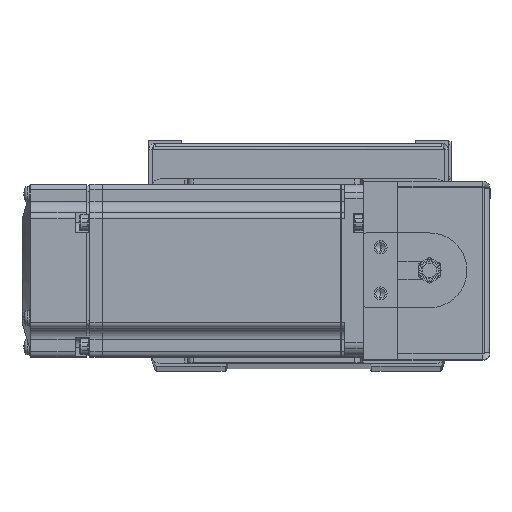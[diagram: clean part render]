
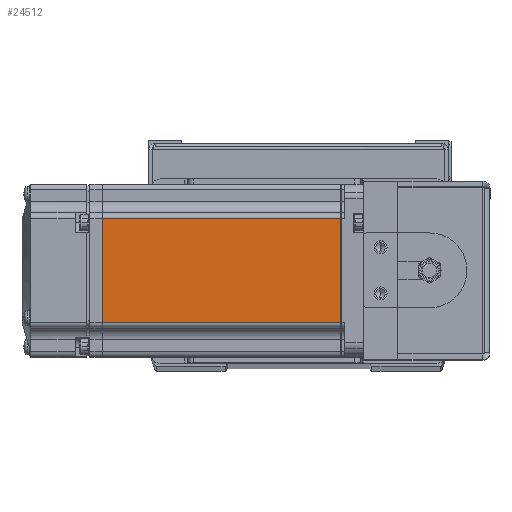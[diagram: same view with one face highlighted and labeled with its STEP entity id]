
A CAD part, top view. The second image highlights one B-rep face of the part: STEP entity #24512.
In plain terms, the highlighted planar face has unit normal (0, 0, 1) as drawn and (0, -1, 0) by its records, which use the part's own axes.
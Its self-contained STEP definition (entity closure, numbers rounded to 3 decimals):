
#543 = DIRECTION ( 'NONE',  ( 0., 0., -1. ) ) ;
#3487 = CARTESIAN_POINT ( 'NONE',  ( -6.5, -30., -18. ) ) ;
#3490 = CARTESIAN_POINT ( 'NONE',  ( -90.45, -30., 18. ) ) ;
#3562 = DIRECTION ( 'NONE',  ( 0., 0., -1. ) ) ;
#7850 = CARTESIAN_POINT ( 'NONE',  ( -6.5, -30., 18. ) ) ;
#8160 = VERTEX_POINT ( 'NONE', #15520 ) ;
#8940 = CARTESIAN_POINT ( 'NONE',  ( -7.75, -30., 0. ) ) ;
#10960 = EDGE_CURVE ( 'NONE', #34657, #40923, #44515, .T. ) ;
#12353 = EDGE_CURVE ( 'NONE', #28369, #8160, #26167, .T. ) ;
#14448 = LINE ( 'NONE', #3487, #31131 ) ;
#15011 = ORIENTED_EDGE ( 'NONE', *, *, #12353, .T. ) ;
#15520 = CARTESIAN_POINT ( 'NONE',  ( -90.45, -30., -18. ) ) ;
#15694 = AXIS2_PLACEMENT_3D ( 'NONE', #32534, #36174, #543 ) ;
#18918 = EDGE_CURVE ( 'NONE', #40923, #8160, #14448, .T. ) ;
#19782 = DIRECTION ( 'NONE',  ( -1., 0., 0. ) ) ;
#21441 = VECTOR ( 'NONE', #19782, 1000. ) ;
#21701 = ORIENTED_EDGE ( 'NONE', *, *, #48369, .T. ) ;
#22536 = DIRECTION ( 'NONE',  ( 0., 0., -1. ) ) ;
#22860 = CARTESIAN_POINT ( 'NONE',  ( -7.75, -30., 18. ) ) ;
#24512 = ADVANCED_FACE ( 'NONE', ( #29116 ), #47854, .T. ) ;
#26167 = LINE ( 'NONE', #34486, #40919 ) ;
#27207 = ORIENTED_EDGE ( 'NONE', *, *, #18918, .F. ) ;
#28369 = VERTEX_POINT ( 'NONE', #3490 ) ;
#29116 = FACE_OUTER_BOUND ( 'NONE', #44546, .T. ) ;
#31131 = VECTOR ( 'NONE', #34973, 1000. ) ;
#32534 = CARTESIAN_POINT ( 'NONE',  ( -6.5, -30., -25. ) ) ;
#34486 = CARTESIAN_POINT ( 'NONE',  ( -90.45, -30., 0. ) ) ;
#34657 = VERTEX_POINT ( 'NONE', #22860 ) ;
#34973 = DIRECTION ( 'NONE',  ( -1., 0., 0. ) ) ;
#36174 = DIRECTION ( 'NONE',  ( 0., -1., 0. ) ) ;
#38978 = CARTESIAN_POINT ( 'NONE',  ( -7.75, -30., -18. ) ) ;
#39052 = ORIENTED_EDGE ( 'NONE', *, *, #10960, .F. ) ;
#39809 = LINE ( 'NONE', #7850, #21441 ) ;
#40919 = VECTOR ( 'NONE', #22536, 1000. ) ;
#40923 = VERTEX_POINT ( 'NONE', #38978 ) ;
#44515 = LINE ( 'NONE', #8940, #49707 ) ;
#44546 = EDGE_LOOP ( 'NONE', ( #39052, #21701, #15011, #27207 ) ) ;
#47854 = PLANE ( 'NONE',  #15694 ) ;
#48369 = EDGE_CURVE ( 'NONE', #34657, #28369, #39809, .T. ) ;
#49707 = VECTOR ( 'NONE', #3562, 1000. ) ;
